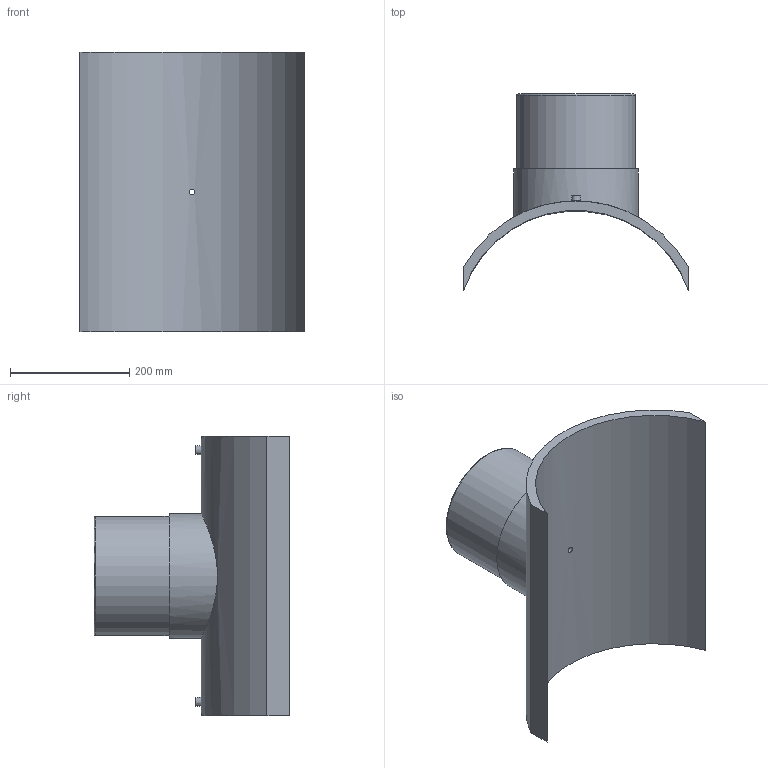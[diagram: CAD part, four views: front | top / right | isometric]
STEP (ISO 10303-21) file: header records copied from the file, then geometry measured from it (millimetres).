
FILE_DESCRIPTION(/* description */ ('PLASSON BRANCH SADDLE 400x200'),/* implementation_level */ '2;1');
FILE_NAME(/* name */ 'C:\Dropbox\KIMPROJECTS-Inventor 2019\99-16-3568-Processing\ElectroFusion Fittings\495803\stp\495803400200T.stp',/* time_stamp */ '2024-04-04T11:50:31+02:00',/* author */ ('KIM'),/* organization */ (''),/* preprocessor_version */ 'ST-DEVELOPER v17.2',/* originating_system */ 'Autodesk Inventor 2019',/* authorisation */ '');
FILE_SCHEMA (('AUTOMOTIVE_DESIGN { 1 0 10303 214 3 1 1 }'));
Length unit declared in the file: millimetre
Products named in the file (1): 495803400200T
Bounding box: 377 x 329.16 x 470 mm (x, y, z)
Volume: 5929195.9 mm3; surface area: 723810.4 mm2
Topology: 1 solids, 1 shells, 29 faces, 60 edges, 43 vertices
Faces by surface type: plane 13, cylinder 12, torus 2, cone 2
Full cylindrical faces by diameter (mm): 4 x2, 9.6 x1, 10 x2, 16 x1, 160 x1, 200 x1, 210 x1
Entity records: 1086 total; most frequent: CARTESIAN_POINT 400, DIRECTION 139, ORIENTED_EDGE 120, EDGE_CURVE 60, AXIS2_PLACEMENT_3D 60, VERTEX_POINT 43, EDGE_LOOP 41, CIRCLE 30
